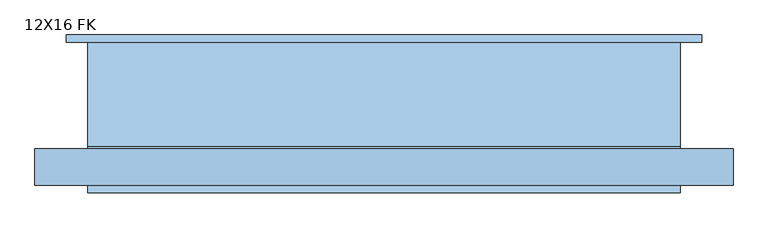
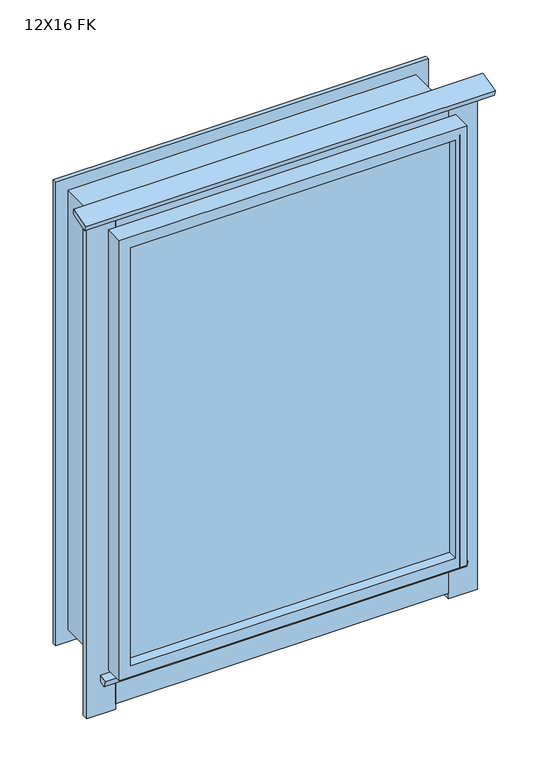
"""IFC4 building model written with IfcOpenShell, lengths in millimetres: window geometry, Vindu FK : 12X16 FK."""

from ifc_helpers import new_model, si_unit, frame, origin, place, context, project, spatial, polyline, outline, extrude, faceted_brep, source, transform, mapped, element, save


def window_12x16_fk_50476c46(model_context):
    return source(origin(), model_context, "Body", "SolidModel", [
        extrude(outline(polyline([(-179.444437, 2559.1537013), (-107.0, 2578.5651297), (-107.0, 2558.8948822), (-174.5268751, 2540.8011106), (-179.444437, 2559.1537013)])), frame((-701.0, 0.0, 0.0), z_axis=(1.0, 0.0, 0.0), x_axis=(0.0, 1.0, 0.0)), (0.0, 0.0, 1.0), 1402.0),
        extrude(outline(polyline([(-155.2962913, 870.6791642), (-107.0, 883.6201165), (-107.0, 860.8440405), (-149.6022723, 849.4287961), (-155.2962913, 870.6791642)])), frame((-621.0, 0.0, 0.0), z_axis=(1.0, 0.0, 0.0), x_axis=(0.0, 1.0, 0.0)), (0.0, 0.0, 1.0), 1242.0),
        extrude(outline(polyline([(-570.0, -107.0), (570.0, -107.0), (570.0, -129.0), (-570.0, -129.0), (-570.0, -107.0)])), frame((0.0, 0.0, 757.0051732), z_axis=(0.0, 0.0, 1.0), x_axis=(1.0, 0.0, 0.0)), (0.0, 0.0, 1.0), 98.0),
        extrude(outline(polyline([(-570.0, -107.0), (570.0, -107.0), (570.0, -129.0), (-570.0, -129.0), (-570.0, -107.0)])), frame((0.0, 0.0, 2455.0), z_axis=(0.0, 0.0, 1.0), x_axis=(1.0, 0.0, 0.0)), (0.0, 0.0, 1.0), 98.0),
        extrude(outline(polyline([(668.0, -107.0), (668.0, -129.0), (570.0, -129.0), (570.0, -107.0), (668.0, -107.0)])), frame((0.0, 0.0, 737.0), z_axis=(0.0, 0.0, 1.0), x_axis=(1.0, 0.0, 0.0)), (0.0, 0.0, 1.0), 1816.0),
        extrude(outline(polyline([(-570.0, -107.0), (-570.0, -129.0), (-668.0, -129.0), (-668.0, -107.0), (-570.0, -107.0)])), frame((0.0, 0.0, 737.0), z_axis=(0.0, 0.0, 1.0), x_axis=(1.0, 0.0, 0.0)), (0.0, 0.0, 1.0), 1816.0),
        extrude(outline(polyline([(-556.0, -159.0), (-556.0, -135.0), (556.0, -135.0), (556.0, -159.0), (-556.0, -159.0)])), frame((0.0, 0.0, 929.0), z_axis=(0.0, 0.0, 1.0), x_axis=(1.0, 0.0, 0.0)), (0.0, 0.0, 1.0), 1512.0),
        faceted_brep([(-595.0, -195.0, 890.0), (-595.0, -195.0, 2480.0), (-595.0, -103.0, 2480.0), (-595.0, -103.0, 890.0), (-556.0, -135.0, 929.0), (-556.0, -135.0, 2441.0), (-556.0, -195.0, 2441.0), (-556.0, -195.0, 929.0), (-538.0, -103.0, 947.0), (-538.0, -103.0, 2423.0), (-538.0, -135.0, 2423.0), (-538.0, -135.0, 947.0), (595.0, -195.0, 2480.0), (595.0, -103.0, 2480.0), (556.0, -135.0, 2441.0), (556.0, -195.0, 2441.0), (538.0, -103.0, 2423.0), (538.0, -135.0, 2423.0), (595.0, -195.0, 890.0), (595.0, -103.0, 890.0), (556.0, -135.0, 929.0), (556.0, -195.0, 929.0), (538.0, -103.0, 947.0), (538.0, -135.0, 947.0)], [[[0, 1, 2, 3]], [[4, 5, 6, 7]], [[8, 9, 10, 11]], [[1, 12, 13, 2]], [[5, 14, 15, 6]], [[9, 16, 17, 10]], [[12, 18, 19, 13]], [[14, 20, 21, 15]], [[16, 22, 23, 17]], [[18, 0, 3, 19]], [[1, 0, 18, 12], [7, 6, 15, 21]], [[20, 4, 7, 21]], [[5, 4, 20, 14], [11, 10, 17, 23]], [[22, 8, 11, 23]], [[3, 2, 13, 19], [9, 8, 22, 16]]]),
        faceted_brep([(-595.0, 107.0, 890.0), (595.0, 107.0, 890.0), (595.0, -103.0, 890.0), (-595.0, -103.0, 890.0), (595.0, 107.0, 2480.0), (595.0, -103.0, 2480.0), (-595.0, -103.0, 2480.0), (580.0, -103.0, 2465.0), (580.0, -103.0, 905.0), (-580.0, -103.0, 905.0), (-580.0, -103.0, 2465.0), (638.0, 107.0, 847.0), (638.0, 107.0, 2523.0), (-638.0, 107.0, 2523.0), (-638.0, 107.0, 847.0), (-595.0, 107.0, 2480.0), (-638.0, 122.0, 847.0), (638.0, 122.0, 847.0), (638.0, 122.0, 2523.0), (-638.0, 122.0, 2523.0), (580.0, 122.0, 905.0), (580.0, 122.0, 2465.0), (-580.0, 122.0, 2465.0), (-580.0, 122.0, 905.0)], [[[0, 1, 2, 3]], [[1, 4, 5, 2]], [[2, 5, 6, 3], [7, 8, 9, 10]], [[11, 12, 13, 14], [4, 1, 0, 15]], [[16, 17, 11, 14]], [[17, 18, 12, 11]], [[18, 17, 16, 19], [20, 21, 22, 23]], [[9, 8, 20, 23]], [[8, 7, 21, 20]], [[15, 0, 3, 6]], [[19, 16, 14, 13]], [[10, 9, 23, 22]], [[4, 15, 6, 5]], [[18, 19, 13, 12]], [[7, 10, 22, 21]]]),
        extrude(outline(polyline([(890.0, 595.0), (2480.0, 595.0), (2480.0, -595.0), (890.0, -595.0), (890.0, -570.0), (2455.0, -570.0), (2455.0, 570.0), (890.0, 570.0), (890.0, 595.0)])), frame((0.0, -195.0, 0.0), z_axis=(0.0, 1.0, 0.0), x_axis=(0.0, 0.0, 1.0)), (0.0, 0.0, 1.0), 88.0),
    ])


if __name__ == "__main__":
    model = new_model("IFC4")
    model_context = context("Model", 3, world=origin())
    ifc_project = project(units=[si_unit("LENGTHUNIT", "METRE", prefix="MILLI")], contexts=[model_context])
    site = spatial("IfcSite", under=ifc_project)
    building = spatial("IfcBuilding", under=site)
    placement = place(None, origin())
    window_12x16_fk_shape = window_12x16_fk_50476c46(model_context)
    element("IfcWindow", 1, ObjectType="Vindu FK : 12X16 FK", at=placement, inside=building, context=model_context, shape_type="MappedRepresentation", body=[
        mapped(window_12x16_fk_shape, transform((0.0, 0.0, 0.0), x_axis=(1.0, 0.0, 0.0), y_axis=(0.0, 1.0, 0.0), z_axis=(0.0, 0.0, 1.0))),
    ])
    save(model, "model.ifc")
